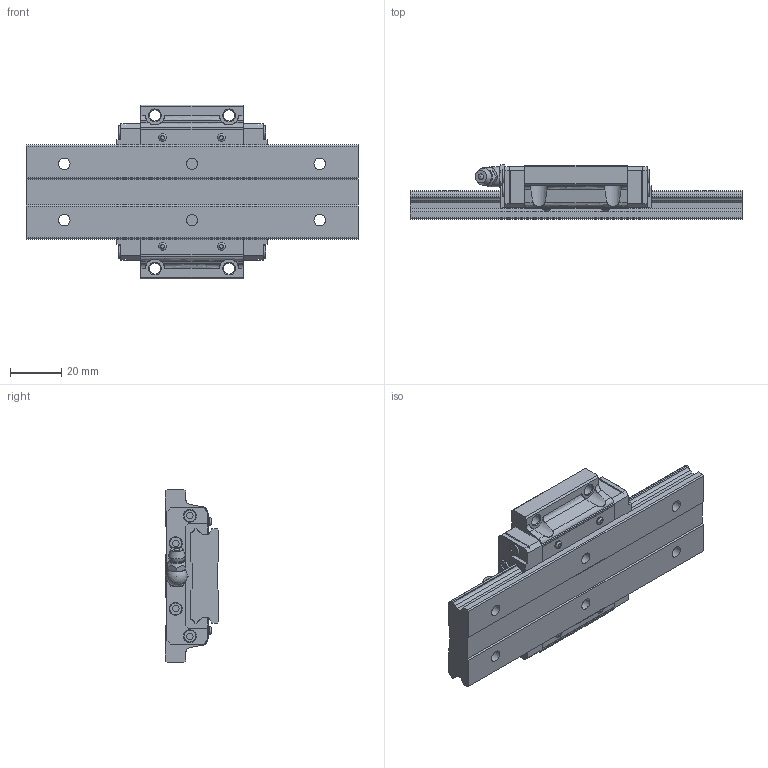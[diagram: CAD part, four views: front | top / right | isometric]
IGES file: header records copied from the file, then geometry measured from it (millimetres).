
Start section: Data from Parasolid IGES Translator 26.0.171, Copyright(c) 2006 Siemens PLM Software. All Rights Reserved.
Global section: file name: HRW21CA1UU-130L_G15_0_B-M6F_35-6_0_0_0_1.igs; native system: By Siemens PLM Incorporated; preprocessor: XPlus GENERIC/IGES 26.0.171; author: Noname; organization: Noname; date: 20240521.094910; units: millimetre
Bounding box: 130 x 21.12 x 68 mm (x, y, z)
Surface area: 28144.4 mm2 (no closed solid volume)
Topology: 0 solids, 0 shells, 331 faces, 1740 edges, 1653 vertices
Faces by surface type: extrusion 228, revolution 103
